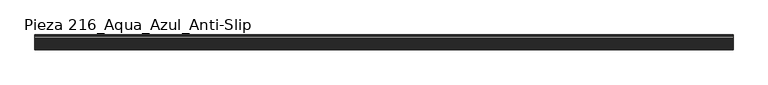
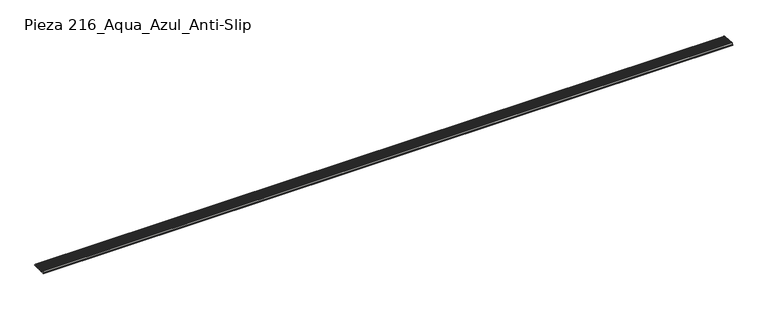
"""IFC4 building model written with IfcOpenShell, lengths in millimetres: slab geometry, ROSA GRES_216 : Pieza 216_Aqua_Azul_Anti-Slip."""

from ifc_helpers import new_model, si_unit, point, frame, frame_2d, origin, place, context, project, spatial, polyline, circle_curve, trimmed, segment, composite_curve, outline, extrude, source, transform, mapped, element, save


def pieza_216_aqua_azul_anti_slip_ab0e75ff(model_context):
    return source(origin(), model_context, "Body", "SweptSolid", [
        extrude(outline(composite_curve([segment(polyline([(-50.2779274, 190.3313491), (-47.02226, 214.2649666), (-36.1886491, 213.5497765)]), True, "CONTINUOUS"), segment(trimmed(circle_curve(frame_2d((-32.9401407, 216.1124298)), 4.1376321), [point((-36.1886491, 213.5497765))], [point((-30.8950387, 212.5155483))], True, "CARTESIAN"), True, "CONTINUOUS"), segment(trimmed(circle_curve(frame_2d((-28.8499366, 208.9186667)), 4.1376321), [point((-30.8950387, 212.5155483))], [point((-26.349741, 212.2154865))], False, "CARTESIAN"), True, "CONTINUOUS"), segment(trimmed(circle_curve(frame_2d((-23.8495454, 215.5123064)), 4.1376321), [point((-26.349741, 212.2154865))], [point((-20.9679225, 212.5430894))], True, "CARTESIAN"), True, "CONTINUOUS"), segment(polyline([(-20.9679225, 212.5430894), (-12.4148911, 211.9892969)]), True, "CONTINUOUS"), segment(trimmed(circle_curve(frame_2d((-13.9356113, 198.4086002)), 13.6655739), [point((-12.4148911, 211.9892969))], [point((-0.270618, 198.2826277))], False, "CARTESIAN"), True, "CONTINUOUS"), segment(polyline([(-0.270618, 198.2826277), (-0.2589396, 192.8448483), (-5.1617818, 192.8343188), (-5.4229579, 190.3493946), (-14.2436688, 190.3458459)]), True, "CONTINUOUS"), segment(trimmed(circle_curve(frame_2d((-28.4466156, 179.1524611)), 18.0835716), [point((-14.2436688, 190.3458459))], [point((-42.6585641, 190.3344144))], True, "CARTESIAN"), True, "CONTINUOUS"), segment(polyline([(-42.6585641, 190.3344144), (-50.2779274, 190.3313491)]), True, "CONTINUOUS")], self_intersect=False)), frame((0.0, 0.0, 0.0), z_axis=(1.0, 0.0, 0.0), x_axis=(0.0, 1.0, 0.0)), (0.0, 0.0, 1.0), 12220.0),
        extrude(outline(composite_curve([segment(polyline([(-263.2751802, 190.245659), (-263.622227, 201.6579314), (-249.1610944, 202.0976939), (-249.2078603, 227.5843816), (-240.0374016, 226.9789859)]), True, "CONTINUOUS"), segment(trimmed(circle_curve(frame_2d((-236.7888932, 229.5416393)), 4.1376321), [point((-240.0374016, 226.9789859))], [point((-234.7437912, 225.9447577))], True, "CARTESIAN"), True, "CONTINUOUS"), segment(trimmed(circle_curve(frame_2d((-232.6986891, 222.3478762)), 4.1376321), [point((-234.7437912, 225.9447577))], [point((-230.1984935, 225.644696))], False, "CARTESIAN"), True, "CONTINUOUS"), segment(trimmed(circle_curve(frame_2d((-227.6982979, 228.9415159)), 4.1376321), [point((-230.1984935, 225.644696))], [point((-225.6531958, 225.3446343))], True, "CARTESIAN"), True, "CONTINUOUS"), segment(trimmed(circle_curve(frame_2d((-223.6080938, 221.7477527)), 4.1376321), [point((-225.6531958, 225.3446343))], [point((-221.1078982, 225.0445726))], False, "CARTESIAN"), True, "CONTINUOUS"), segment(trimmed(circle_curve(frame_2d((-218.6077025, 228.3413925)), 4.1376321), [point((-221.1078982, 225.0445726))], [point((-216.5626005, 224.7445109))], True, "CARTESIAN"), True, "CONTINUOUS"), segment(trimmed(circle_curve(frame_2d((-214.5174985, 221.1476293)), 4.1376321), [point((-216.5626005, 224.7445109))], [point((-212.0173028, 224.4444492))], False, "CARTESIAN"), True, "CONTINUOUS"), segment(trimmed(circle_curve(frame_2d((-209.5171072, 227.741269)), 4.1376321), [point((-212.0173028, 224.4444492))], [point((-207.4720052, 224.1443874))], True, "CARTESIAN"), True, "CONTINUOUS"), segment(trimmed(circle_curve(frame_2d((-205.4269031, 220.5475058)), 4.1376321), [point((-207.4720052, 224.1443874))], [point((-202.9267075, 223.8443257))], False, "CARTESIAN"), True, "CONTINUOUS"), segment(trimmed(circle_curve(frame_2d((-200.4265119, 227.1411456)), 4.1376321), [point((-202.9267075, 223.8443257))], [point((-198.3814098, 223.544264))], True, "CARTESIAN"), True, "CONTINUOUS"), segment(trimmed(circle_curve(frame_2d((-196.3363078, 219.9473824)), 4.1376321), [point((-198.3814098, 223.544264))], [point((-193.8361122, 223.2442023))], False, "CARTESIAN"), True, "CONTINUOUS"), segment(trimmed(circle_curve(frame_2d((-191.3359165, 226.5410222)), 4.1376321), [point((-193.8361122, 223.2442023))], [point((-189.2908145, 222.9441406))], True, "CARTESIAN"), True, "CONTINUOUS"), segment(trimmed(circle_curve(frame_2d((-187.2457125, 219.347259)), 4.1376321), [point((-189.2908145, 222.9441406))], [point((-184.7455168, 222.6440788))], False, "CARTESIAN"), True, "CONTINUOUS"), segment(trimmed(circle_curve(frame_2d((-182.2453212, 225.9408987)), 4.1376321), [point((-184.7455168, 222.6440788))], [point((-180.2002192, 222.3440171))], True, "CARTESIAN"), True, "CONTINUOUS"), segment(trimmed(circle_curve(frame_2d((-178.1551171, 218.7471355)), 4.1376321), [point((-180.2002192, 222.3440171))], [point((-175.6549215, 222.0439554))], False, "CARTESIAN"), True, "CONTINUOUS"), segment(trimmed(circle_curve(frame_2d((-173.1547259, 225.3407753)), 4.1376321), [point((-175.6549215, 222.0439554))], [point((-171.1096238, 221.7438937))], True, "CARTESIAN"), True, "CONTINUOUS"), segment(trimmed(circle_curve(frame_2d((-169.0645218, 218.1470121)), 4.1376321), [point((-171.1096238, 221.7438937))], [point((-166.5643262, 221.443832))], False, "CARTESIAN"), True, "CONTINUOUS"), segment(trimmed(circle_curve(frame_2d((-164.0641305, 224.7406518)), 4.1376321), [point((-166.5643262, 221.443832))], [point((-162.0190285, 221.1437703))], True, "CARTESIAN"), True, "CONTINUOUS"), segment(trimmed(circle_curve(frame_2d((-159.9739265, 217.5468887)), 4.1376321), [point((-162.0190285, 221.1437703))], [point((-157.4737308, 220.8437085))], False, "CARTESIAN"), True, "CONTINUOUS"), segment(trimmed(circle_curve(frame_2d((-154.9735352, 224.1405284)), 4.1376321), [point((-157.4737308, 220.8437085))], [point((-152.9284332, 220.5436468))], True, "CARTESIAN"), True, "CONTINUOUS"), segment(trimmed(circle_curve(frame_2d((-150.8833311, 216.9467652)), 4.1376321), [point((-152.9284332, 220.5436468))], [point((-148.3831355, 220.2435851))], False, "CARTESIAN"), True, "CONTINUOUS"), segment(trimmed(circle_curve(frame_2d((-145.8829399, 223.540405)), 4.1376321), [point((-148.3831355, 220.2435851))], [point((-143.8378378, 219.9435234))], True, "CARTESIAN"), True, "CONTINUOUS"), segment(trimmed(circle_curve(frame_2d((-141.7927358, 216.3466418)), 4.1376321), [point((-143.8378378, 219.9435234))], [point((-139.2925402, 219.6434617))], False, "CARTESIAN"), True, "CONTINUOUS"), segment(trimmed(circle_curve(frame_2d((-136.7923445, 222.9402815)), 4.1376321), [point((-139.2925402, 219.6434617))], [point((-134.7472425, 219.3433999))], True, "CARTESIAN"), True, "CONTINUOUS"), segment(trimmed(circle_curve(frame_2d((-132.7021405, 215.7465184)), 4.1376321), [point((-134.7472425, 219.3433999))], [point((-130.2019448, 219.0433382))], False, "CARTESIAN"), True, "CONTINUOUS"), segment(trimmed(circle_curve(frame_2d((-127.7017492, 222.3401581)), 4.1376321), [point((-130.2019448, 219.0433382))], [point((-125.6566472, 218.7432765))], True, "CARTESIAN"), True, "CONTINUOUS"), segment(trimmed(circle_curve(frame_2d((-123.6115451, 215.1463949)), 4.1376321), [point((-125.6566472, 218.7432765))], [point((-121.1113495, 218.4432148))], False, "CARTESIAN"), True, "CONTINUOUS"), segment(trimmed(circle_curve(frame_2d((-118.6111539, 221.7400347)), 4.1376321), [point((-121.1113495, 218.4432148))], [point((-116.5660518, 218.1431531))], True, "CARTESIAN"), True, "CONTINUOUS"), segment(trimmed(circle_curve(frame_2d((-114.5209498, 214.5462715)), 4.1376321), [point((-116.5660518, 218.1431531))], [point((-112.0207542, 217.8430914))], False, "CARTESIAN"), True, "CONTINUOUS"), segment(trimmed(circle_curve(frame_2d((-109.5205585, 221.1399112)), 4.1376321), [point((-112.0207542, 217.8430914))], [point((-107.4754565, 217.5430296))], True, "CARTESIAN"), True, "CONTINUOUS"), segment(trimmed(circle_curve(frame_2d((-105.4303545, 213.9461481)), 4.1376321), [point((-107.4754565, 217.5430296))], [point((-102.9301588, 217.2429679))], False, "CARTESIAN"), True, "CONTINUOUS"), segment(trimmed(circle_curve(frame_2d((-100.4299632, 220.5397878)), 4.1376321), [point((-102.9301588, 217.2429679))], [point((-97.5473566, 217.5715259))], True, "CARTESIAN"), True, "CONTINUOUS"), segment(polyline([(-97.5473566, 217.5715259), (-86.7854822, 216.8536554), (-84.083877, 210.4125036)]), True, "CONTINUOUS"), segment(trimmed(circle_curve(frame_2d((-70.8098694, 215.980006)), 14.394317), [point((-84.083877, 210.4125036))], [point((-76.5779698, 202.7919289))], True, "CARTESIAN"), True, "CONTINUOUS"), segment(trimmed(circle_curve(frame_2d((-74.7526105, 206.9653964)), 4.5551913), [point((-76.5779698, 202.7919289))], [point((-75.0526722, 202.4200987))], True, "CARTESIAN"), True, "CONTINUOUS"), segment(polyline([(-75.0526722, 202.4200987), (-59.5105698, 201.3940735)]), True, "CONTINUOUS"), segment(trimmed(circle_curve(frame_2d((-59.2105081, 205.9393712)), 4.5551913), [point((-59.5105698, 201.3940735))], [point((-57.0972438, 201.904042))], True, "CARTESIAN"), True, "CONTINUOUS"), segment(trimmed(circle_curve(frame_2d((-63.7751184, 214.6556047)), 14.394317), [point((-57.0972438, 201.904042))], [point((-51.3482048, 207.3914339))], True, "CARTESIAN"), True, "CONTINUOUS"), segment(polyline([(-51.3482048, 207.3914339), (-47.02226, 214.2649666), (-50.2802779, 190.3140695), (-93.2293566, 190.3140695), (-94.4638044, 193.8901119)]), True, "CONTINUOUS"), segment(trimmed(circle_curve(frame_2d((-99.6308378, 192.1064549)), 5.4662296), [point((-94.4638044, 193.8901119))], [point((-96.2307788, 196.386556))], True, "CARTESIAN"), True, "CONTINUOUS"), segment(trimmed(circle_curve(frame_2d((-112.2317578, 176.2440208)), 25.7245612), [point((-96.2307788, 196.386556))], [point((-129.2498705, 195.5348707))], True, "CARTESIAN"), True, "CONTINUOUS"), segment(trimmed(circle_curve(frame_2d((-125.6336801, 191.4357448)), 5.4662296), [point((-129.2498705, 195.5348707))], [point((-130.9555618, 192.6836396))], True, "CARTESIAN"), True, "CONTINUOUS"), segment(polyline([(-130.9555618, 192.6836396), (-131.5147991, 190.298667), (-143.719644, 190.2937569)]), True, "CONTINUOUS"), segment(trimmed(circle_curve(frame_2d((-162.221775, 186.3703221)), 18.9135452), [point((-143.719644, 190.2937569))], [point((-180.7270569, 190.2788686))], True, "CARTESIAN"), True, "CONTINUOUS"), segment(polyline([(-180.7270569, 190.2788686), (-193.0966393, 190.2738923)]), True, "CONTINUOUS"), segment(trimmed(circle_curve(frame_2d((-215.0085062, 186.5344061)), 22.2286676), [point((-193.0966393, 190.2738923))], [point((-236.9233748, 190.2562605))], True, "CARTESIAN"), True, "CONTINUOUS"), segment(polyline([(-236.9233748, 190.2562605), (-263.2751802, 190.245659)]), True, "CONTINUOUS")], self_intersect=False)), frame((0.0, 0.0, 0.0), z_axis=(1.0, 0.0, 0.0), x_axis=(0.0, 1.0, 0.0)), (0.0, 0.0, 1.0), 12220.0),
    ])


if __name__ == "__main__":
    model = new_model("IFC4")
    model_context = context("Model", 3, world=origin())
    ifc_project = project(units=[si_unit("LENGTHUNIT", "METRE", prefix="MILLI")], contexts=[model_context])
    site = spatial("IfcSite", under=ifc_project)
    building = spatial("IfcBuilding", under=site)
    placement = place(None, origin())
    pieza_216_aqua_azul_anti_slip_shape = pieza_216_aqua_azul_anti_slip_ab0e75ff(model_context)
    element("IfcSlab", 1, ObjectType="ROSA GRES_216 : Pieza 216_Aqua_Azul_Anti-Slip", at=placement, inside=building, context=model_context, shape_type="MappedRepresentation", body=[
        mapped(pieza_216_aqua_azul_anti_slip_shape, transform((0.0, 0.0, 0.0), x_axis=(1.0, 0.0, 0.0), y_axis=(0.0, 1.0, 0.0), z_axis=(0.0, 0.0, 1.0))),
    ])
    save(model, "model.ifc")
